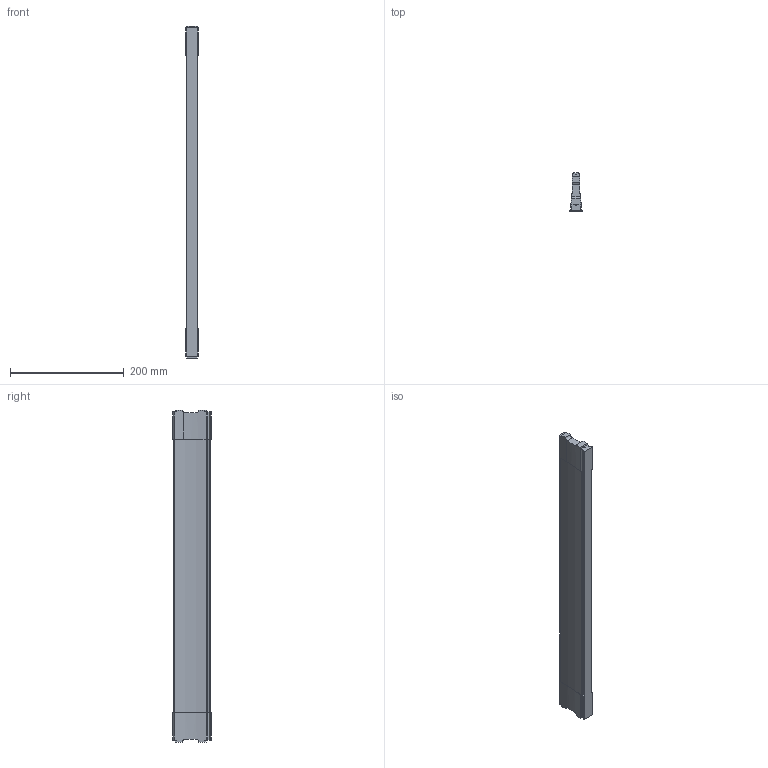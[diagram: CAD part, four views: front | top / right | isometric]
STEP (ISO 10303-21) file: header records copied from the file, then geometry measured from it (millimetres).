
FILE_DESCRIPTION (( 'STEP AP214' ), '1' );
FILE_NAME ('Traverse NOVAPro NL600 Mass X575,4.step', '2010-09-21T13:17:03', ( 'grass' ), ( '' ), 'SwSTEP 2.0', 'SolidWorks 2010', '' );
FILE_SCHEMA (( 'AUTOMOTIVE_DESIGN' ));
Length unit declared in the file: millimetre
Products named in the file (1): Traverse NOVAPro NL600 Mass X575,4
Bounding box: 21.4 x 67.5 x 584.4 mm (x, y, z)
Volume: 485914.9 mm3; surface area: 101560.8 mm2
Topology: 1 solids, 1 shells, 125 faces, 369 edges, 246 vertices
Faces by surface type: cylinder 68, plane 57
Entity records: 4377 total; most frequent: CARTESIAN_POINT 879, DIRECTION 753, ORIENTED_EDGE 738, EDGE_CURVE 369, AXIS2_PLACEMENT_3D 268, VERTEX_POINT 246, VECTOR 217, LINE 217
